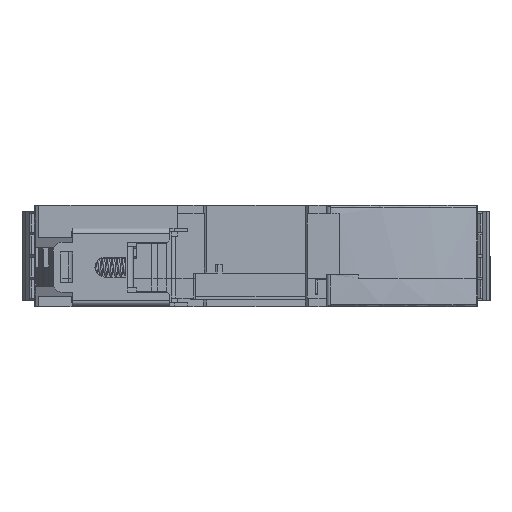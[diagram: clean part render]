
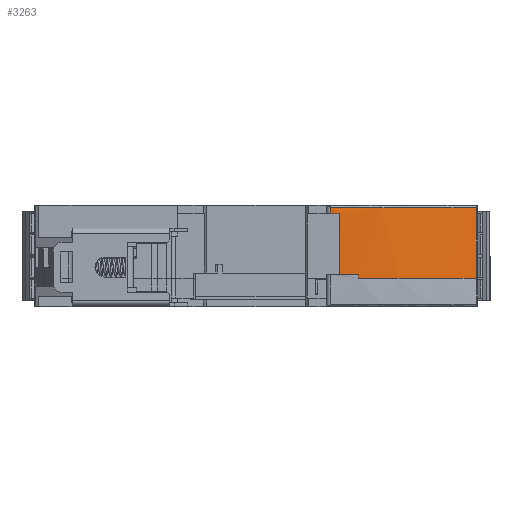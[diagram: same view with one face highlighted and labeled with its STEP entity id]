
A CAD part, front view. The second image highlights one B-rep face of the part: STEP entity #3263.
In plain terms, the highlighted cylindrical face has radius 80 mm (diameter 160 mm), a partial arc.
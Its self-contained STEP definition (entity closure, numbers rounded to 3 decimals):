
#87 = DIRECTION ( 'NONE',  ( 0.447, -0.895, 0. ) ) ;
#1135 = VERTEX_POINT ( 'NONE', #3842 ) ;
#1338 = EDGE_CURVE ( 'NONE', #72132, #37668, #44640, .T. ) ;
#3263 = ADVANCED_FACE ( 'NONE', ( #41463 ), #66445, .T. ) ;
#3842 = CARTESIAN_POINT ( 'NONE',  ( 18.7, 3.419, -1.7 ) ) ;
#5009 = DIRECTION ( 'NONE',  ( 0., 0., 1. ) ) ;
#5462 = DIRECTION ( 'NONE',  ( 0., 0., -1. ) ) ;
#9294 = AXIS2_PLACEMENT_3D ( 'NONE', #55489, #5462, #43150 ) ;
#13800 = CARTESIAN_POINT ( 'NONE',  ( 22.9, 3.804, -2.5 ) ) ;
#14299 = CARTESIAN_POINT ( 'NONE',  ( 22.9, 3.804, -1.7 ) ) ;
#17699 = LINE ( 'NONE', #55462, #79557 ) ;
#19870 = EDGE_CURVE ( 'NONE', #72132, #1135, #26697, .T. ) ;
#20414 = VERTEX_POINT ( 'NONE', #59372 ) ;
#21999 = CARTESIAN_POINT ( 'NONE',  ( 13.5, 83.25, 13.3 ) ) ;
#22132 = CIRCLE ( 'NONE', #33906, 80. ) ;
#22470 = LINE ( 'NONE', #14299, #37599 ) ;
#23917 = ORIENTED_EDGE ( 'NONE', *, *, #19870, .T. ) ;
#24986 = EDGE_LOOP ( 'NONE', ( #40740, #23917, #56772, #47880, #35364, #65779, #76629, #25018 ) ) ;
#25018 = ORIENTED_EDGE ( 'NONE', *, *, #37173, .T. ) ;
#26645 = EDGE_CURVE ( 'NONE', #78754, #63330, #22132, .T. ) ;
#26697 = LINE ( 'NONE', #69317, #61755 ) ;
#28776 = AXIS2_PLACEMENT_3D ( 'NONE', #49440, #44080, #50258 ) ;
#33906 = AXIS2_PLACEMENT_3D ( 'NONE', #50514, #75471, #87 ) ;
#35312 = DIRECTION ( 'NONE',  ( 0., 0., -1. ) ) ;
#35364 = ORIENTED_EDGE ( 'NONE', *, *, #26645, .F. ) ;
#36260 = CARTESIAN_POINT ( 'NONE',  ( 16.741, 3.316, 11.9 ) ) ;
#37173 = EDGE_CURVE ( 'NONE', #20414, #37668, #65496, .T. ) ;
#37599 = VECTOR ( 'NONE', #53233, 1000. ) ;
#37668 = VERTEX_POINT ( 'NONE', #36260 ) ;
#38960 = CARTESIAN_POINT ( 'NONE',  ( 22.9, 3.804, -1.7 ) ) ;
#39854 = CARTESIAN_POINT ( 'NONE',  ( 18.7, 3.419, 11.9 ) ) ;
#40270 = EDGE_CURVE ( 'NONE', #74856, #63330, #22470, .T. ) ;
#40471 = DIRECTION ( 'NONE',  ( 0.041, -0.999, 0. ) ) ;
#40636 = CIRCLE ( 'NONE', #28776, 80. ) ;
#40740 = ORIENTED_EDGE ( 'NONE', *, *, #1338, .F. ) ;
#41463 = FACE_OUTER_BOUND ( 'NONE', #24986, .T. ) ;
#43150 = DIRECTION ( 'NONE',  ( 0.065, -0.998, 0. ) ) ;
#44080 = DIRECTION ( 'NONE',  ( 0., 0., -1. ) ) ;
#44092 = CARTESIAN_POINT ( 'NONE',  ( 49.223, 11.669, -2.5 ) ) ;
#44608 = CIRCLE ( 'NONE', #78561, 80. ) ;
#44640 = CIRCLE ( 'NONE', #9294, 80. ) ;
#45365 = EDGE_CURVE ( 'NONE', #78754, #78845, #17699, .T. ) ;
#46652 = DIRECTION ( 'NONE',  ( 0., 0., -1. ) ) ;
#47880 = ORIENTED_EDGE ( 'NONE', *, *, #40270, .T. ) ;
#48429 = CARTESIAN_POINT ( 'NONE',  ( 13.5, 83.25, 3.3 ) ) ;
#49440 = CARTESIAN_POINT ( 'NONE',  ( 13.5, 83.25, -1.7 ) ) ;
#50258 = DIRECTION ( 'NONE',  ( 0.065, -0.998, 0. ) ) ;
#50514 = CARTESIAN_POINT ( 'NONE',  ( 13.5, 83.25, -2.5 ) ) ;
#52848 = CARTESIAN_POINT ( 'NONE',  ( 16.741, 3.316, 11.9 ) ) ;
#53233 = DIRECTION ( 'NONE',  ( 0., 0., -1. ) ) ;
#55462 = CARTESIAN_POINT ( 'NONE',  ( 49.223, 11.669, 13.3 ) ) ;
#55489 = CARTESIAN_POINT ( 'NONE',  ( 13.5, 83.25, 11.9 ) ) ;
#56772 = ORIENTED_EDGE ( 'NONE', *, *, #60309, .F. ) ;
#58928 = DIRECTION ( 'NONE',  ( 0., 0., -1. ) ) ;
#59372 = CARTESIAN_POINT ( 'NONE',  ( 16.741, 3.316, 13.3 ) ) ;
#60309 = EDGE_CURVE ( 'NONE', #74856, #1135, #40636, .T. ) ;
#61755 = VECTOR ( 'NONE', #75064, 1000. ) ;
#63330 = VERTEX_POINT ( 'NONE', #13800 ) ;
#63360 = CARTESIAN_POINT ( 'NONE',  ( 49.223, 11.669, 13.3 ) ) ;
#65496 = LINE ( 'NONE', #52848, #76697 ) ;
#65779 = ORIENTED_EDGE ( 'NONE', *, *, #45365, .T. ) ;
#66445 = CYLINDRICAL_SURFACE ( 'NONE', #78019, 80. ) ;
#69317 = CARTESIAN_POINT ( 'NONE',  ( 18.7, 3.419, 11.9 ) ) ;
#72132 = VERTEX_POINT ( 'NONE', #39854 ) ;
#73409 = DIRECTION ( 'NONE',  ( 0.447, -0.895, 0. ) ) ;
#74856 = VERTEX_POINT ( 'NONE', #38960 ) ;
#75064 = DIRECTION ( 'NONE',  ( 0., 0., -1. ) ) ;
#75471 = DIRECTION ( 'NONE',  ( 0., 0., -1. ) ) ;
#76629 = ORIENTED_EDGE ( 'NONE', *, *, #78469, .T. ) ;
#76697 = VECTOR ( 'NONE', #46652, 1000. ) ;
#78019 = AXIS2_PLACEMENT_3D ( 'NONE', #48429, #35312, #73409 ) ;
#78469 = EDGE_CURVE ( 'NONE', #78845, #20414, #44608, .T. ) ;
#78561 = AXIS2_PLACEMENT_3D ( 'NONE', #21999, #58928, #40471 ) ;
#78754 = VERTEX_POINT ( 'NONE', #44092 ) ;
#78845 = VERTEX_POINT ( 'NONE', #63360 ) ;
#79557 = VECTOR ( 'NONE', #5009, 1000. ) ;
